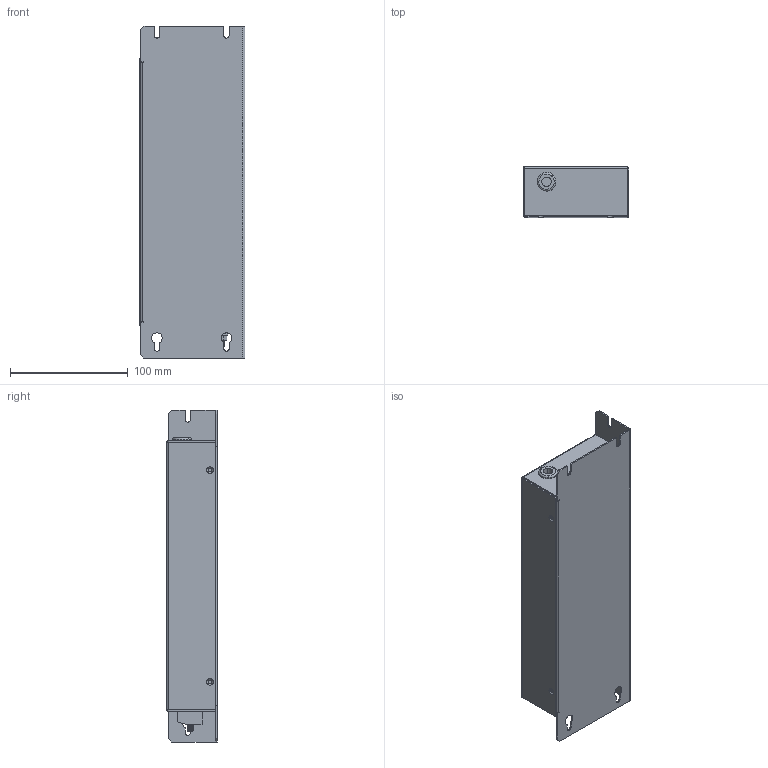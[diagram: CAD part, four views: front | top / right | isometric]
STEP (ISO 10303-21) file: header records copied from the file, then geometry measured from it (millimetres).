
FILE_DESCRIPTION (( 'STEP AP203' ), '1' );
FILE_NAME ('M400-3.STEP', '2016-09-07T08:33:02', ( '' ), ( '' ), 'SwSTEP 2.0', 'SolidWorks 2016', '' );
FILE_SCHEMA (( 'CONFIG_CONTROL_DESIGN' ));
Length unit declared in the file: millimetre
Products named in the file (10): hex nut style 1_am_B18.2.4.1M - Hex nut, Style 1,  M5 x 0.8 --D-N; hex screw_am_B18.6.7M - M5 x 0.8 x 13 Indented HHMS --13S; M4 Hank 0.6mm; VDFK-4; flat washer narrow_am_B18.22M - Plain washer, 5 mm, narrow; Grommet_15080; M400-3; M400-3 box; M5x13 Earth post; M400-3 back
Assembly tree (16 placements, depth 3):
  M400-3
    M400-3 back
    M400-3 box
    M4 Hank 0.6mm  x5
    Grommet_15080
    M5x13 Earth post
      hex screw_am_B18.6.7M - M5 x 0.8 x 13 Indented HHMS --13S
      flat washer narrow_am_B18.22M - Plain washer, 5 mm, narrow  x2
      hex nut style 1_am_B18.2.4.1M - Hex nut, Style 1,  M5 x 0.8 --D-N
    VDFK-4  x3
Bounding box: 90 x 43 x 282 mm (x, y, z)
Volume: 101161.4 mm3; surface area: 162681.3 mm2
Topology: 15 solids, 15 shells, 502 faces, 1201 edges, 750 vertices
Faces by surface type: plane 213, cylinder 155, cone 126, bspline 4, torus 4
Entity records: 12349 total; most frequent: CARTESIAN_POINT 2195, DIRECTION 1993, ORIENTED_EDGE 1782, EDGE_CURVE 891, AXIS2_PLACEMENT_3D 768, VERTEX_POINT 554, LINE 457, VECTOR 457
